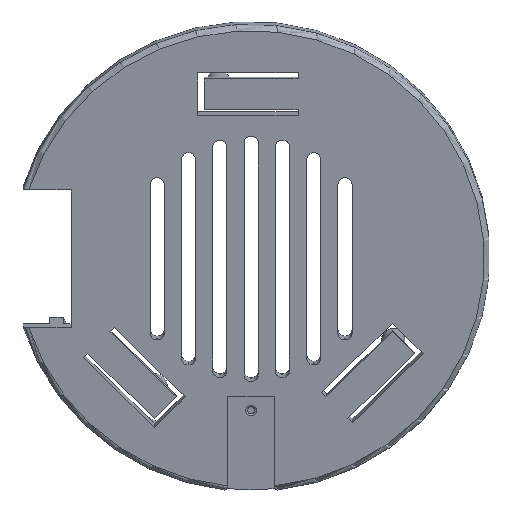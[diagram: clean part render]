
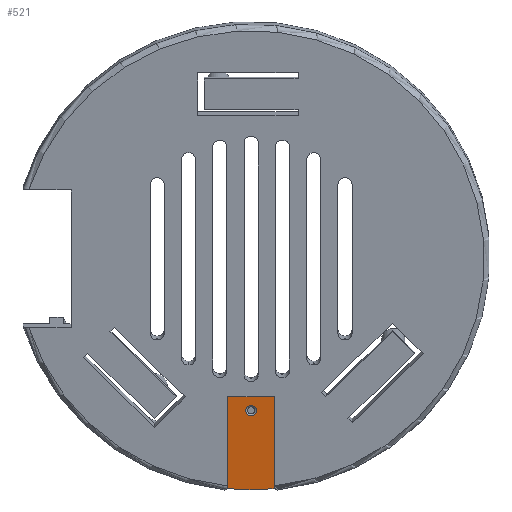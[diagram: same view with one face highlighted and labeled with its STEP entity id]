
A CAD part, top view. The second image highlights one B-rep face of the part: STEP entity #521.
In plain terms, the highlighted planar face has unit normal (0, -0.208, 0.978).
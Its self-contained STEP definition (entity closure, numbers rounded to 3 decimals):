
#33 = CYLINDRICAL_SURFACE('',#34,30.5);
#34 = AXIS2_PLACEMENT_3D('',#35,#36,#37);
#35 = CARTESIAN_POINT('',(0.,33.084,25.481));
#36 = DIRECTION('',(-0.,0.208,-0.978));
#37 = DIRECTION('',(1.,0.,0.));
#172 = VERTEX_POINT('',#173);
#173 = CARTESIAN_POINT('',(-4.,3.342,19.977));
#191 = PLANE('',#192);
#192 = AXIS2_PLACEMENT_3D('',#193,#194,#195);
#193 = CARTESIAN_POINT('',(-4.,15.311,22.521));
#194 = DIRECTION('',(-0.848,-0.11,0.518));
#195 = DIRECTION('',(0.53,-0.176,0.829));
#203 = EDGE_CURVE('',#204,#172,#206,.T.);
#204 = VERTEX_POINT('',#205);
#205 = CARTESIAN_POINT('',(4.,3.342,19.977));
#206 = SURFACE_CURVE('',#207,(#212,#219),.PCURVE_S1.);
#207 = CIRCLE('',#208,30.5);
#208 = AXIS2_PLACEMENT_3D('',#209,#210,#211);
#209 = CARTESIAN_POINT('',(0.,32.918,26.263));
#210 = DIRECTION('',(0.,0.208,-0.978));
#211 = DIRECTION('',(1.,0.,0.));
#212 = PCURVE('',#33,#213);
#213 = DEFINITIONAL_REPRESENTATION('',(#214),#218);
#214 = LINE('',#215,#216);
#215 = CARTESIAN_POINT('',(-6.283,-0.8));
#216 = VECTOR('',#217,1.);
#217 = DIRECTION('',(1.,-0.));
#218 = ( GEOMETRIC_REPRESENTATION_CONTEXT(2) 
PARAMETRIC_REPRESENTATION_CONTEXT() REPRESENTATION_CONTEXT('2D SPACE',''
  ) );
#219 = PCURVE('',#220,#225);
#220 = PLANE('',#221);
#221 = AXIS2_PLACEMENT_3D('',#222,#223,#224);
#222 = CARTESIAN_POINT('',(4.,15.311,22.521));
#223 = DIRECTION('',(-0.,0.208,-0.978));
#224 = DIRECTION('',(-1.,0.,0.));
#225 = DEFINITIONAL_REPRESENTATION('',(#226),#230);
#226 = CIRCLE('',#227,30.5);
#227 = AXIS2_PLACEMENT_2D('',#228,#229);
#228 = CARTESIAN_POINT('',(4.,18.));
#229 = DIRECTION('',(-1.,0.));
#230 = ( GEOMETRIC_REPRESENTATION_CONTEXT(2) 
PARAMETRIC_REPRESENTATION_CONTEXT() REPRESENTATION_CONTEXT('2D SPACE',''
  ) );
#250 = PLANE('',#251);
#251 = AXIS2_PLACEMENT_3D('',#252,#253,#254);
#252 = CARTESIAN_POINT('',(3.,14.978,24.086));
#253 = DIRECTION('',(0.848,-0.11,0.518));
#254 = DIRECTION('',(0.53,0.176,-0.829));
#451 = VERTEX_POINT('',#452);
#452 = CARTESIAN_POINT('',(4.,15.311,22.521));
#466 = PLANE('',#467);
#467 = AXIS2_PLACEMENT_3D('',#468,#469,#470);
#468 = CARTESIAN_POINT('',(0.,15.071,
    23.65));
#469 = DIRECTION('',(0.,0.978,0.208));
#470 = DIRECTION('',(0.,-0.208,0.978));
#501 = EDGE_CURVE('',#451,#204,#502,.T.);
#502 = SURFACE_CURVE('',#503,(#507,#514),.PCURVE_S1.);
#503 = LINE('',#504,#505);
#504 = CARTESIAN_POINT('',(4.,15.311,22.521));
#505 = VECTOR('',#506,1.);
#506 = DIRECTION('',(0.,-0.978,-0.208));
#507 = PCURVE('',#250,#508);
#508 = DEFINITIONAL_REPRESENTATION('',(#509),#513);
#509 = LINE('',#510,#511);
#510 = CARTESIAN_POINT('',(1.887,0.));
#511 = VECTOR('',#512,1.);
#512 = DIRECTION('',(0.,-1.));
#513 = ( GEOMETRIC_REPRESENTATION_CONTEXT(2) 
PARAMETRIC_REPRESENTATION_CONTEXT() REPRESENTATION_CONTEXT('2D SPACE',''
  ) );
#514 = PCURVE('',#220,#515);
#515 = DEFINITIONAL_REPRESENTATION('',(#516),#520);
#516 = LINE('',#517,#518);
#517 = CARTESIAN_POINT('',(0.,0.));
#518 = VECTOR('',#519,1.);
#519 = DIRECTION('',(-0.,-1.));
#520 = ( GEOMETRIC_REPRESENTATION_CONTEXT(2) 
PARAMETRIC_REPRESENTATION_CONTEXT() REPRESENTATION_CONTEXT('2D SPACE',''
  ) );
#521 = ADVANCED_FACE('',(#522,#570),#220,.F.);
#522 = FACE_BOUND('',#523,.F.);
#523 = EDGE_LOOP('',(#524,#547,#548,#549));
#524 = ORIENTED_EDGE('',*,*,#525,.F.);
#525 = EDGE_CURVE('',#451,#526,#528,.T.);
#526 = VERTEX_POINT('',#527);
#527 = CARTESIAN_POINT('',(-4.,15.311,22.521));
#528 = SURFACE_CURVE('',#529,(#533,#540),.PCURVE_S1.);
#529 = LINE('',#530,#531);
#530 = CARTESIAN_POINT('',(4.,15.311,22.521));
#531 = VECTOR('',#532,1.);
#532 = DIRECTION('',(-1.,0.,0.));
#533 = PCURVE('',#220,#534);
#534 = DEFINITIONAL_REPRESENTATION('',(#535),#539);
#535 = LINE('',#536,#537);
#536 = CARTESIAN_POINT('',(0.,0.));
#537 = VECTOR('',#538,1.);
#538 = DIRECTION('',(1.,0.));
#539 = ( GEOMETRIC_REPRESENTATION_CONTEXT(2) 
PARAMETRIC_REPRESENTATION_CONTEXT() REPRESENTATION_CONTEXT('2D SPACE',''
  ) );
#540 = PCURVE('',#466,#541);
#541 = DEFINITIONAL_REPRESENTATION('',(#542),#546);
#542 = LINE('',#543,#544);
#543 = CARTESIAN_POINT('',(-1.154,4.));
#544 = VECTOR('',#545,1.);
#545 = DIRECTION('',(0.,-1.));
#546 = ( GEOMETRIC_REPRESENTATION_CONTEXT(2) 
PARAMETRIC_REPRESENTATION_CONTEXT() REPRESENTATION_CONTEXT('2D SPACE',''
  ) );
#547 = ORIENTED_EDGE('',*,*,#501,.T.);
#548 = ORIENTED_EDGE('',*,*,#203,.T.);
#549 = ORIENTED_EDGE('',*,*,#550,.F.);
#550 = EDGE_CURVE('',#526,#172,#551,.T.);
#551 = SURFACE_CURVE('',#552,(#556,#563),.PCURVE_S1.);
#552 = LINE('',#553,#554);
#553 = CARTESIAN_POINT('',(-4.,15.311,22.521));
#554 = VECTOR('',#555,1.);
#555 = DIRECTION('',(0.,-0.978,-0.208));
#556 = PCURVE('',#220,#557);
#557 = DEFINITIONAL_REPRESENTATION('',(#558),#562);
#558 = LINE('',#559,#560);
#559 = CARTESIAN_POINT('',(8.,0.));
#560 = VECTOR('',#561,1.);
#561 = DIRECTION('',(-0.,-1.));
#562 = ( GEOMETRIC_REPRESENTATION_CONTEXT(2) 
PARAMETRIC_REPRESENTATION_CONTEXT() REPRESENTATION_CONTEXT('2D SPACE',''
  ) );
#563 = PCURVE('',#191,#564);
#564 = DEFINITIONAL_REPRESENTATION('',(#565),#569);
#565 = LINE('',#566,#567);
#566 = CARTESIAN_POINT('',(0.,0.));
#567 = VECTOR('',#568,1.);
#568 = DIRECTION('',(0.,-1.));
#569 = ( GEOMETRIC_REPRESENTATION_CONTEXT(2) 
PARAMETRIC_REPRESENTATION_CONTEXT() REPRESENTATION_CONTEXT('2D SPACE',''
  ) );
#570 = FACE_BOUND('',#571,.F.);
#571 = EDGE_LOOP('',(#572));
#572 = ORIENTED_EDGE('',*,*,#573,.F.);
#573 = EDGE_CURVE('',#574,#574,#576,.T.);
#574 = VERTEX_POINT('',#575);
#575 = CARTESIAN_POINT('',(-0.69,13.208,22.074));
#576 = SURFACE_CURVE('',#577,(#582,#589),.PCURVE_S1.);
#577 = CIRCLE('',#578,0.69);
#578 = AXIS2_PLACEMENT_3D('',#579,#580,#581);
#579 = CARTESIAN_POINT('',(0.,13.208,22.074));
#580 = DIRECTION('',(0.,0.208,-0.978));
#581 = DIRECTION('',(-1.,0.,0.));
#582 = PCURVE('',#220,#583);
#583 = DEFINITIONAL_REPRESENTATION('',(#584),#588);
#584 = CIRCLE('',#585,0.69);
#585 = AXIS2_PLACEMENT_2D('',#586,#587);
#586 = CARTESIAN_POINT('',(4.,-2.15));
#587 = DIRECTION('',(1.,0.));
#588 = ( GEOMETRIC_REPRESENTATION_CONTEXT(2) 
PARAMETRIC_REPRESENTATION_CONTEXT() REPRESENTATION_CONTEXT('2D SPACE',''
  ) );
#589 = PCURVE('',#590,#595);
#590 = CONICAL_SURFACE('',#591,0.85,1.012);
#591 = AXIS2_PLACEMENT_3D('',#592,#593,#594);
#592 = CARTESIAN_POINT('',(0.,13.187,22.172));
#593 = DIRECTION('',(-0.,-0.208,0.978));
#594 = DIRECTION('',(-1.,0.,0.));
#595 = DEFINITIONAL_REPRESENTATION('',(#596),#600);
#596 = LINE('',#597,#598);
#597 = CARTESIAN_POINT('',(-0.,-0.1));
#598 = VECTOR('',#599,1.);
#599 = DIRECTION('',(-1.,-0.));
#600 = ( GEOMETRIC_REPRESENTATION_CONTEXT(2) 
PARAMETRIC_REPRESENTATION_CONTEXT() REPRESENTATION_CONTEXT('2D SPACE',''
  ) );
